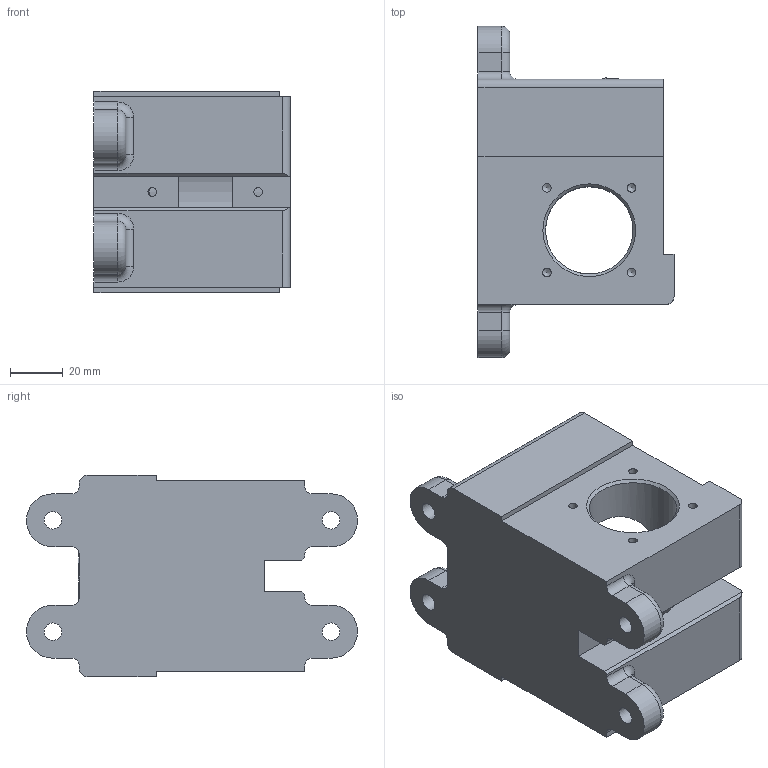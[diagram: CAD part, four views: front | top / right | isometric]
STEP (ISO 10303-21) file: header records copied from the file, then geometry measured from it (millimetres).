
FILE_DESCRIPTION(/* description */ (''),/* implementation_level */ '2;1');
FILE_NAME(/* name */ '',/* time_stamp */ '2025-05-27T17:28:14+09:00',/* author */ ('jhkim'),/* organization */ (''),/* preprocessor_version */ 'ST-DEVELOPER v20.1',/* originating_system */ 'Autodesk Inventor 2026',/* authorisation */ '');
FILE_SCHEMA (('AUTOMOTIVE_DESIGN { 1 0 10303 214 3 1 1 }'));
Length unit declared in the file: millimetre
Products named in the file (1): 본체
Bounding box: 74 x 125 x 76 mm (x, y, z)
Volume: 297546.2 mm3; surface area: 53976.5 mm2
Topology: 1 solids, 1 shells, 319 faces, 841 edges, 547 vertices
Faces by surface type: plane 156, bspline 76, cylinder 54, cone 18, torus 15
Full cylindrical faces by diameter (mm): 3.242 x14, 6.6 x4, 11 x4, 33 x1, 35 x1, 44 x1, 47 x1
Entity records: 10038 total; most frequent: CARTESIAN_POINT 2542, ORIENTED_EDGE 1654, DIRECTION 1299, EDGE_CURVE 827, VERTEX_POINT 547, LINE 535, VECTOR 535, AXIS2_PLACEMENT_3D 382
